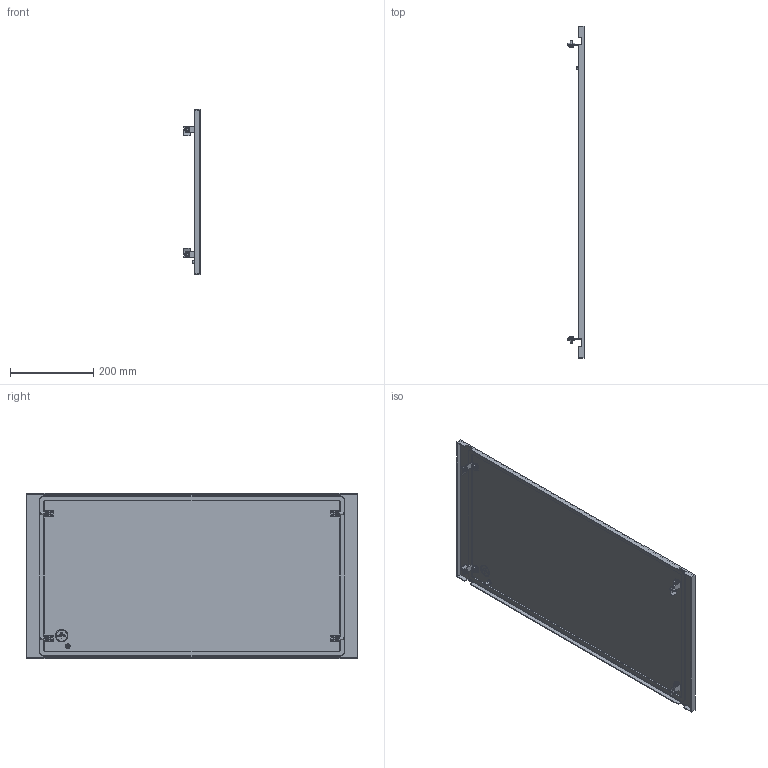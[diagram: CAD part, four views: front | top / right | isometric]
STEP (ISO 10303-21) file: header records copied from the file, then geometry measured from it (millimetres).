
FILE_DESCRIPTION (( 'STEP AP214' ), '1' );
FILE_NAME ('FO-00-PWSB-040-080 Ôàëüø-ïàíåëü âíåøíÿÿ ãëóõàÿ 400õ800 ìì.STEP', '2025-08-25T07:54:43', ( '' ), ( '' ), 'SwSTEP 2.0', 'SolidWorks 2023', '' );
FILE_SCHEMA (( 'AUTOMOTIVE_DESIGN' ));
Length unit declared in the file: millimetre
Products named in the file (1): FO-00-PWSB-040-080 Фальш-панель внешняя глухая 400х800 мм
Bounding box: 38.5 x 795 x 396 mm (x, y, z)
Volume: 766811.8 mm3; surface area: 708181.8 mm2
Topology: 1 solids, 10 shells, 846 faces, 2093 edges, 1287 vertices
Faces by surface type: plane 530, cylinder 202, cone 90, torus 24
Entity records: 25296 total; most frequent: CARTESIAN_POINT 4873, DIRECTION 4361, ORIENTED_EDGE 4182, EDGE_CURVE 2091, AXIS2_PLACEMENT_3D 1487, VECTOR 1387, LINE 1387, VERTEX_POINT 1287
